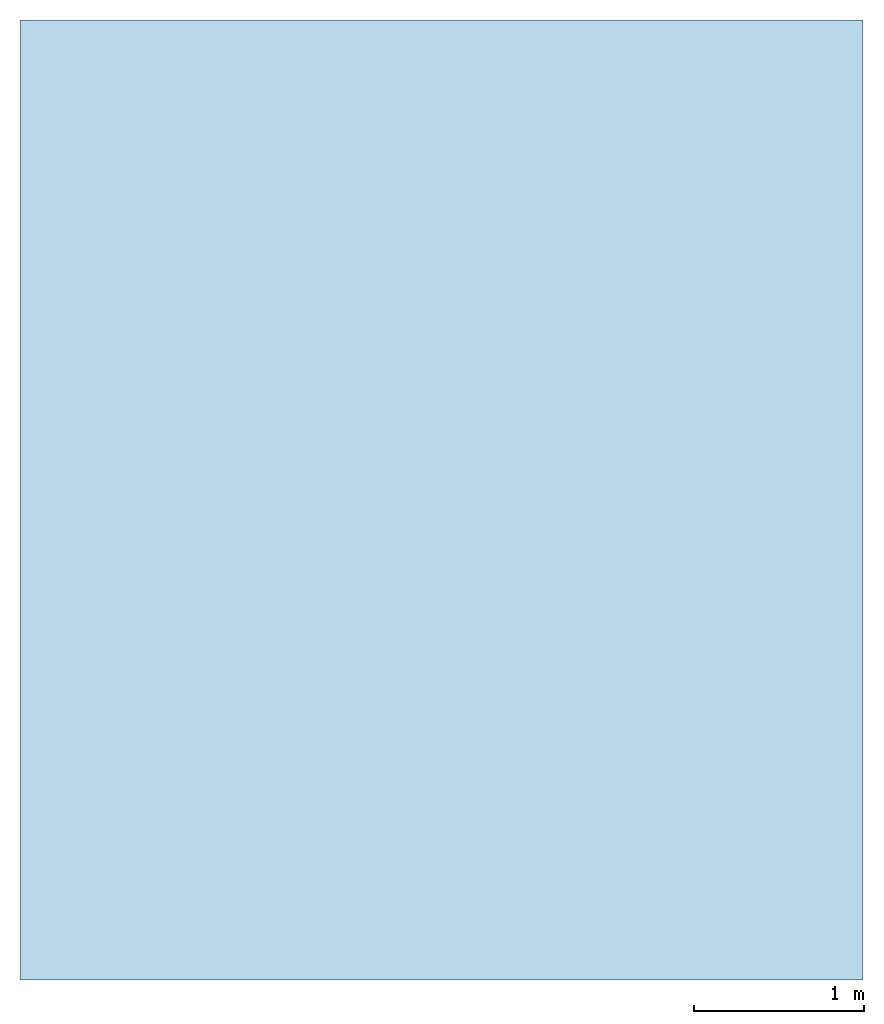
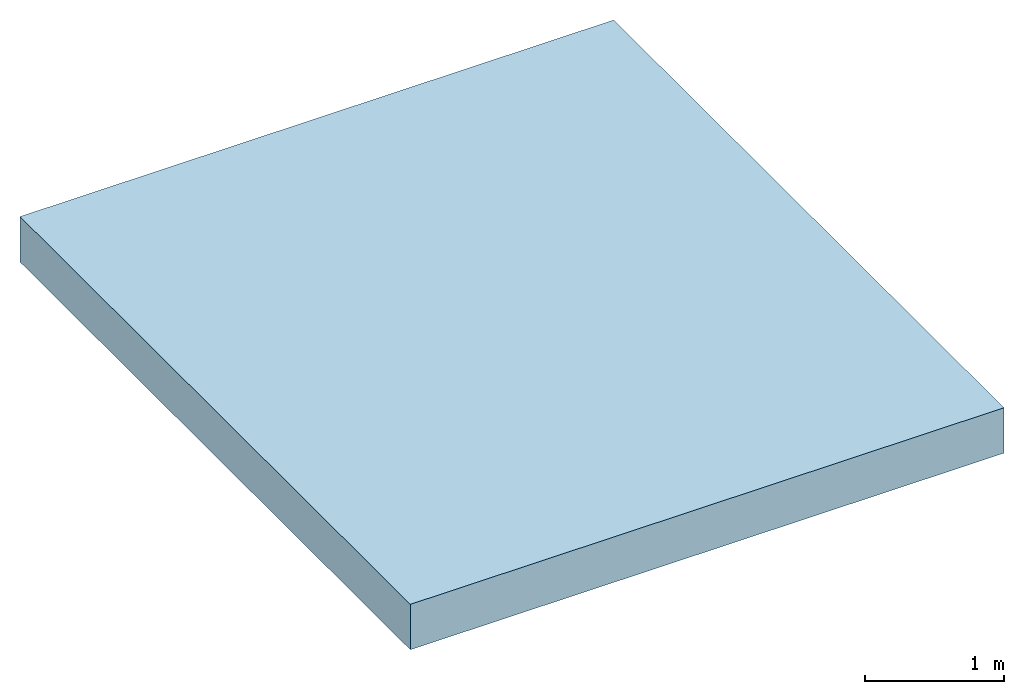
# One storey: 1 slab, 6 openings.
"""IFC2X3 building model written with IfcOpenShell, lengths in millimetres."""

import ifcopenshell
import ifcopenshell.guid

model = None  # the IFC model being written
_history = None  # IfcOwnerHistory: only IFC2X3 demands one
_inside = {}  # id of a spatial element -> (the spatial element, [elements in it])
_under = {}  # id of a project, library or spatial element -> (it, [spatial elements below it])
_declared = {}  # id of a project -> (the project, [libraries it declares])
_typed = {}  # id of a type object -> (the type object, [elements of that type])
_made_of = {}  # id of a material, layer set ... -> (it, [elements and type objects made of it])


def new_model(schema):
    """Start an empty IFC model of exactly this schema.

    Asked for "IFC4X3", IfcOpenShell would pick the latest addendum, in which some entities
    have other attributes; the version numbers below select the first issue.
    IFC2X3 requires an IfcOwnerHistory on every rooted entity: one is made here for all.
    """
    global model, _history
    if schema == "IFC4X3":
        model = ifcopenshell.file(schema_version=(4, 3, 0, 0))
    else:
        model = ifcopenshell.file(schema=schema)
    _inside.clear()
    _under.clear()
    _declared.clear()
    _typed.clear()
    _made_of.clear()
    _history = None
    if model.schema == "IFC2X3":
        org = make("IfcOrganization", Name="unknown")
        user = make(
            "IfcPersonAndOrganization",
            ThePerson=make("IfcPerson", FamilyName="unknown"),
            TheOrganization=org,
        )
        app = make(
            "IfcApplication",
            ApplicationDeveloper=org,
            Version="unknown",
            ApplicationFullName="unknown",
            ApplicationIdentifier="unknown",
        )
        _history = make(
            "IfcOwnerHistory",
            OwningUser=user,
            OwningApplication=app,
            ChangeAction="ADDED",
            CreationDate=0,
        )
    return model


def make(cls, **values):
    """One entity of the class cls with the attributes given. An attribute that is None is left unset."""
    return model.create_entity(
        cls, **{name: value for name, value in values.items() if value is not None}
    )


def entity(cls, *values):
    """Any entity or typed value of the class cls, its attributes in the order of the schema. None: left unset."""
    e = model.create_entity(cls)
    for i, value in enumerate(values):
        if value is not None:
            e[i] = value
    return e


def rooted(cls, **values):
    """An entity with a GlobalId (a new one), such as an element, a storey or a relation."""
    return make(cls, GlobalId=ifcopenshell.guid.new(), OwnerHistory=_history, **values)


def si_unit(unit_type, name, prefix=None):
    """IfcSIUnit, for example si_unit("LENGTHUNIT", "METRE", prefix="MILLI")."""
    return make("IfcSIUnit", UnitType=unit_type, Prefix=prefix, Name=name)


def converted_unit(unit_type, name, factor, base, dimensions=None, offset=None):
    """IfcConversionBasedUnit, such as the inch: factor (a typed value) times the base unit."""
    return make(
        "IfcConversionBasedUnit"
        if offset is None
        else "IfcConversionBasedUnitWithOffset",
        ConversionOffset=offset,
        Dimensions=None
        if dimensions is None
        else entity("IfcDimensionalExponents", *dimensions),
        UnitType=unit_type,
        Name=name,
        ConversionFactor=make(
            "IfcMeasureWithUnit", ValueComponent=factor, UnitComponent=base
        ),
    )


def assignment(units):
    """IfcUnitAssignment: the units of a project."""
    return None if units is None else make("IfcUnitAssignment", Units=units)


def point(xyz):
    """IfcCartesianPoint."""
    return None if xyz is None else make("IfcCartesianPoint", Coordinates=xyz)


def direction(xyz):
    """IfcDirection."""
    return None if xyz is None else make("IfcDirection", DirectionRatios=xyz)


def frame(location, z_axis=None, x_axis=None):
    """IfcAxis2Placement3D, a coordinate frame: its origin and axes. An axis left out is left unset."""
    return make(
        "IfcAxis2Placement3D",
        Location=point(location),
        Axis=direction(z_axis),
        RefDirection=direction(x_axis),
    )


def frame_2d(location, x_axis=None):
    """IfcAxis2Placement2D, a coordinate frame in the plane: its origin and x axis."""
    return make(
        "IfcAxis2Placement2D", Location=point(location), RefDirection=direction(x_axis)
    )


def origin():
    """The frame at (0, 0, 0) with its axes left unset."""
    return frame((0.0, 0.0, 0.0))


def origin_2d_with_axis():
    """The frame at (0, 0) in the plane with the x axis (1, 0) written out."""
    return frame_2d((0.0, 0.0), x_axis=(1.0, 0.0))


def place(relative_to, where):
    """IfcLocalPlacement: puts the frame where relative to a parent placement (None: the world)."""
    return make(
        "IfcLocalPlacement", PlacementRelTo=relative_to, RelativePlacement=where
    )


def context(
    kind, dimensions, precision=None, world=None, true_north=None, identifier=None
):
    """IfcGeometricRepresentationContext, for example the 3D "Model" context."""
    return make(
        "IfcGeometricRepresentationContext",
        ContextIdentifier=identifier,
        ContextType=kind,
        CoordinateSpaceDimension=dimensions,
        Precision=precision,
        WorldCoordinateSystem=world,
        TrueNorth=true_north,
    )


def subcontext(parent, identifier, kind, view, scale=None):
    """IfcGeometricRepresentationSubContext, for example "Body" below "Model"."""
    return make(
        "IfcGeometricRepresentationSubContext",
        ContextIdentifier=identifier,
        ContextType=kind,
        ParentContext=parent,
        TargetScale=scale,
        TargetView=view,
    )


def project(units=None, contexts=None):
    """IfcProject with its units and contexts."""
    return rooted(
        "IfcProject",
        Name="project",
        RepresentationContexts=contexts,
        UnitsInContext=assignment(units),
    )


def spatial(cls, under=None, at=None, **own):
    """A site, building, storey or space (cls), placed at a placement, below another one or the project."""
    s = rooted(cls, ObjectPlacement=at, **own)
    if under is not None:
        _under.setdefault(under.id(), (under, []))[1].append(s)
    return s


def polyline(points):
    """IfcPolyline through the points."""
    return make("IfcPolyline", Points=[point(p) for p in points])


def circle_curve(where, radius):
    """IfcCircle in the frame where."""
    return make("IfcCircle", Position=where, Radius=radius)


def parameter(value):
    """IfcParameterValue: where a trimmed curve begins or ends, as a parameter of its basis curve."""
    return model.create_entity("IfcParameterValue", value)


def trimmed(basis, trim1, trim2, sense, master):
    """IfcTrimmedCurve: the piece of a basis curve between two trims."""
    return make(
        "IfcTrimmedCurve",
        BasisCurve=basis,
        Trim1=trim1,
        Trim2=trim2,
        SenseAgreement=sense,
        MasterRepresentation=master,
    )


def segment(curve, same_sense, transition):
    """IfcCompositeCurveSegment."""
    return make(
        "IfcCompositeCurveSegment",
        Transition=transition,
        SameSense=same_sense,
        ParentCurve=curve,
    )


def composite_curve(segments, self_intersect=None):
    """IfcCompositeCurve: segments joined end to end."""
    return make("IfcCompositeCurve", Segments=segments, SelfIntersect=self_intersect)


def profile(cls, at=None, kind="AREA", **sizes):
    """A parametric profile (cls). Its sizes go by their IFC names, for example OverallWidth=200.0."""
    return make(cls, ProfileType=kind, Position=at, **sizes)


def rectangle(**sizes):
    """IfcRectangleProfileDef."""
    return profile("IfcRectangleProfileDef", **sizes)


def outline(outer, holes=None, kind="AREA"):
    """IfcArbitraryClosedProfileDef: a profile drawn as a closed curve; with holes, ...WithVoids."""
    if holes is None:
        return make("IfcArbitraryClosedProfileDef", ProfileType=kind, OuterCurve=outer)
    return make(
        "IfcArbitraryProfileDefWithVoids",
        ProfileType=kind,
        OuterCurve=outer,
        InnerCurves=holes,
    )


def extrude(swept, where, along, depth):
    """IfcExtrudedAreaSolid: the profile swept, set in the frame where, extruded along a direction by depth."""
    return make(
        "IfcExtrudedAreaSolid",
        SweptArea=swept,
        Position=where,
        ExtrudedDirection=direction(along),
        Depth=depth,
    )


def faces_of(points, faces, orient=None, outer=None):
    """IfcFace entities. A face is a list of loops; a loop is a list of indices into points, from 0.

    orient and outer hold one flag for each loop. By default every Orientation is true, the
    first loop of a face is its IfcFaceOuterBound and the others are IfcFaceBound.
    """
    made = []
    for i, loops in enumerate(faces):
        bounds = []
        for j, loop in enumerate(loops):
            is_outer = j == 0 if outer is None else outer[i][j]
            bounds.append(
                make(
                    "IfcFaceOuterBound" if is_outer else "IfcFaceBound",
                    Bound=make("IfcPolyLoop", Polygon=[points[k] for k in loop]),
                    Orientation=True if orient is None else orient[i][j],
                )
            )
        made.append(make("IfcFace", Bounds=bounds))
    return made


def faceted_brep(points, faces, orient=None, outer=None, voids=None):
    """IfcFacetedBrep: a solid bounded by flat faces; with voids (closed shells), ...WithVoids."""
    shared = [point(p) for p in points]
    hull = make("IfcClosedShell", CfsFaces=faces_of(shared, faces, orient, outer))
    if voids is None:
        return make("IfcFacetedBrep", Outer=hull)
    return make(
        "IfcFacetedBrepWithVoids",
        Outer=hull,
        Voids=[
            make(cls, CfsFaces=faces_of(shared, fs, o, b)) for cls, fs, o, b in voids
        ],
    )


def shape(context_of_items, identifier, shape_type, items):
    """IfcShapeRepresentation: the items that make up one representation, for example the "Body"."""
    return make(
        "IfcShapeRepresentation",
        ContextOfItems=context_of_items,
        RepresentationIdentifier=identifier,
        RepresentationType=shape_type,
        Items=items,
    )


def material(Name=None, Category=None):
    """IfcMaterial."""
    return make("IfcMaterial", Name=Name, Category=Category)


def layer(
    of_material, thickness, ventilated=None, Name=None, Category=None, Priority=None
):
    """IfcMaterialLayer: one layer of a wall or slab, of a material (None: an air gap)."""
    return make(
        "IfcMaterialLayer",
        Material=of_material,
        LayerThickness=thickness,
        IsVentilated=ventilated,
        Name=Name,
        Category=Category,
        Priority=Priority,
    )


def layer_set(layers, Name=None):
    """IfcMaterialLayerSet."""
    return make("IfcMaterialLayerSet", MaterialLayers=layers, LayerSetName=Name)


def layer_usage(for_layer_set, set_direction, sense, offset, extent=None):
    """IfcMaterialLayerSetUsage: how a layer set lies in its element."""
    return make(
        "IfcMaterialLayerSetUsage",
        ForLayerSet=for_layer_set,
        LayerSetDirection=set_direction,
        DirectionSense=sense,
        OffsetFromReferenceLine=offset,
        ReferenceExtent=extent,
    )


def made_of(thing, what):
    """Note that an element or type object is made of a material, layer set ...; save() writes the relation."""
    if what is not None:
        _made_of.setdefault(what.id(), (what, []))[1].append(thing)
    return thing


def element(
    cls,
    number,
    at=None,
    inside=None,
    cuts=None,
    type_object=None,
    material=None,
    context=None,
    identifier="Body",
    shape_type=None,
    held_by="IfcProductDefinitionShape",
    body=None,
    shapes=None,
    **own,
):
    """One element of the class cls, such as IfcWall. Its Tag is "e" and its number.

    at: its placement. inside: the storey or other place that contains it. cuts: it is an
    opening in that element (IfcRelVoidsElement). A single representation is given by context,
    identifier, shape_type and body (its items); several are given by shapes. held_by: the class
    of the entity that holds the representations. save() writes the other relations.
    """
    e = rooted(cls, Tag="e%d" % number, ObjectPlacement=at, **own)
    if body is not None:
        shapes = [shape(context, identifier, shape_type, body)]
    if shapes is not None:
        e.Representation = make(held_by, Representations=shapes)
    if inside is not None:
        _inside.setdefault(inside.id(), (inside, []))[1].append(e)
    if cuts is not None:
        rooted(
            "IfcRelVoidsElement", RelatingBuildingElement=cuts, RelatedOpeningElement=e
        )
    if type_object is not None:
        _typed.setdefault(type_object.id(), (type_object, []))[1].append(e)
    return made_of(e, material)


def aggregate(whole, parts):
    """IfcRelAggregates: a whole, such as a stair, and the parts it consists of."""
    return rooted("IfcRelAggregates", RelatingObject=whole, RelatedObjects=parts)


def save(model, path):
    """Write the relations noted so far, then the file.

    IfcRelAggregates (storeys below a building ...), IfcRelContainedInSpatialStructure (elements
    in a storey), IfcRelDefinesByType, IfcRelAssociatesMaterial and IfcRelDeclares: one each for
    every whole, place, type object, material and project.
    """
    for whole, parts in _under.values():
        aggregate(whole, parts)
    for where, things in _inside.values():
        rooted(
            "IfcRelContainedInSpatialStructure",
            RelatedElements=things,
            RelatingStructure=where,
        )
    for kind, things in _typed.values():
        rooted("IfcRelDefinesByType", RelatedObjects=things, RelatingType=kind)
    for what, things in _made_of.values():
        rooted("IfcRelAssociatesMaterial", RelatedObjects=things, RelatingMaterial=what)
    for by, libraries in _declared.values():
        rooted("IfcRelDeclares", RelatingContext=by, RelatedDefinitions=libraries)
    model.write(path)


model = new_model("IFC2X3")

# Units and contexts
model_context = context("Model", 3, precision=1e-06, world=origin(), true_north=direction((2.0, 6.12303176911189e-17, 1.0)))
context_of_model = context(None, 3, precision=1e-06, world=origin(), true_north=direction((2.0, 6.12303176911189e-17, 1.0)))
body_context = subcontext(model_context, "Body", "Model", "MODEL_VIEW")
ifc_project = project(units=[si_unit("LENGTHUNIT", "METRE", prefix="MILLI"), si_unit("AREAUNIT", "SQUARE_METRE", prefix="MILLI"), si_unit("VOLUMEUNIT", "CUBIC_METRE", prefix="MILLI"), converted_unit("PLANEANGLEUNIT", "DEGREE", entity("IfcRatioMeasure", 0.0174532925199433), si_unit("PLANEANGLEUNIT", "RADIAN"), dimensions=[0, 0, 0, 0, 0, 0, 0]), si_unit("TIMEUNIT", "SECOND")], contexts=[model_context, context_of_model])

# Site, building, storey
site_placement = place(None, origin())
site = spatial("IfcSite", under=ifc_project, at=site_placement, Name="Default", CompositionType="ELEMENT")
building_placement = place(site_placement, origin())
building = spatial("IfcBuilding", under=site, at=building_placement, CompositionType="ELEMENT")
storey_placement = place(building_placement, origin())
storey = spatial("IfcBuildingStorey", under=building, at=storey_placement, Name="Level 1", CompositionType="ELEMENT", Elevation=0.0)

# Slab, openings
ifc_material = material(Name="Default Floor")
ifc_layer = layer(ifc_material, 400.0)
ifc_layer_set = layer_set([ifc_layer], Name="Floor:Generic Floor - 400mm")
ifc_layer_usage = layer_usage(ifc_layer_set, "AXIS3", "POSITIVE", 0.0)
slab_placement = place(storey_placement, frame((-6426.51252910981, -8304.1683846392, -400.0)))
slab = element("IfcSlab", 1, at=slab_placement, inside=storey, material=ifc_layer_usage, Name="Floor:Generic Floor - 400mm", ObjectType="Floor:Generic Floor - 400mm", PredefinedType="FLOOR", context=body_context, shape_type="SweptSolid", body=[
    extrude(rectangle(XDim=5632.29114211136, YDim=4946.28644627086, at=frame_2d((0.0, 0.0), x_axis=(0.0, -1.0))), frame((2473.14322313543, 2816.14557105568, 400.0), z_axis=(0.0, 0.0, -1.0), x_axis=(-1.0, 0.0, 0.0)), (0.0, 0.0, 1.0), 400.0),
])
opening_1_placement = place(slab_placement, frame((2288.79727895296, 2107.89987372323, -2610.0)))
element("IfcOpeningElement", 2, at=opening_1_placement, cuts=slab, ObjectType="Recess", context=body_context, shape_type="SweptSolid", body=[
    extrude(outline(composite_curve([segment(polyline([(-203.334382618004, -101.667191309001), (101.667191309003, -101.667191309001)]), True, "CONTINUOUS"), segment(polyline([(101.667191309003, -101.667191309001), (101.667191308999, 203.334382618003)]), True, "CONTINUOUS"), segment(trimmed(circle_curve(frame_2d((101.667191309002, -101.667191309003), x_axis=(0.0, -1.0)), 305.001573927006), [parameter(180.0)], [parameter(270.0)], True, "PARAMETER"), True, "CONTINUOUS")], self_intersect=False)), frame((2364.69423813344, 2228.51570532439, -2220.70000000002), z_axis=(0.0, 0.0, 1.0), x_axis=(0.0, -1.0, 0.0)), (0.0, 0.0, 1.0), 19.9999999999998),
])
opening_2_placement = place(slab_placement, frame((2288.79727895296, 2107.89987372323, -2610.0)))
element("IfcOpeningElement", 3, at=opening_2_placement, cuts=slab, ObjectType="Recess", context=body_context, shape_type="SweptSolid", body=[
    extrude(rectangle(XDim=483.47, YDim=155.0, at=origin_2d_with_axis()), frame((2415.52547370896, 2368.57092772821, -5605.0), z_axis=(0.0, 0.0, 1.0), x_axis=(0.0, -1.0, 0.0)), (0.0, 0.0, 1.0), 4.99999999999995),
])
opening_3_placement = place(slab_placement, frame((2288.79727895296, 2107.89987372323, -2610.0)))
element("IfcOpeningElement", 4, at=opening_3_placement, cuts=slab, ObjectType="Recess", context=body_context, shape_type="SweptSolid", body=[
    extrude(outline(composite_curve([segment(polyline([(-239.689092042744, -91.4974034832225), (243.810907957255, -91.4974034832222)]), True, "CONTINUOUS"), segment(polyline([(243.810907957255, -91.4974034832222), (249.854657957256, 58.3807906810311)]), True, "CONTINUOUS"), segment(trimmed(circle_curve(frame_2d((2.06090795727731, -6086.62517005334), x_axis=(0.0, 1.0)), 6150.0), [parameter(357.690832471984)], [parameter(357.748023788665)], True, "PARAMETER"), True, "CONTINUOUS"), segment(polyline([(243.720733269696, 58.6250712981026), (243.823567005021, 60.9981574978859)]), True, "CONTINUOUS"), segment(polyline([(243.823567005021, 60.9981574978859), (173.02120319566, 60.9981574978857)]), True, "CONTINUOUS"), segment(trimmed(circle_curve(frame_2d((2.06090795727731, -6086.62517005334), x_axis=(0.0, 1.0)), 6150.0), [parameter(358.407062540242)], [parameter(1.59293745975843)], True, "PARAMETER"), True, "CONTINUOUS"), segment(polyline([(-168.899387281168, 60.9981574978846), (-256.176432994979, 60.9981574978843)]), True, "CONTINUOUS"), segment(polyline([(-256.176432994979, 60.9981574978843), (-249.676432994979, -89.0018425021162)]), True, "CONTINUOUS"), segment(polyline([(-249.676432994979, -89.0018425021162), (-239.789724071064, -89.0018425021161)]), True, "CONTINUOUS"), segment(polyline([(-239.789724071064, -89.0018425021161), (-239.689092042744, -91.4974034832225)]), True, "CONTINUOUS")], self_intersect=False)), frame((2429.52731621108, 2370.65949473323, 220.0), z_axis=(0.0, 0.0, 1.0), x_axis=(0.0, -1.0, 0.0)), (0.0, 0.0, 1.0), 180.0),
])
opening_4_placement = place(slab_placement, frame((2288.79727895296, 2107.89987372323, -2610.0)))
element("IfcOpeningElement", 5, at=opening_4_placement, cuts=slab, ObjectType="Recess", context=body_context, shape_type="SweptSolid", body=[
    extrude(outline(composite_curve([segment(polyline([(-241.54885459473, -74.9381948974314), (241.548854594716, -74.9381948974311)]), True, "CONTINUOUS"), segment(polyline([(241.548854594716, -74.9381948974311), (247.592531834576, 74.9381948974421)]), True, "CONTINUOUS"), segment(trimmed(circle_curve(frame_2d((0.0, -6065.07778192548), x_axis=(0.0, 1.0)), 6145.00596073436), [parameter(357.690832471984)], [parameter(2.30916752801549)], True, "PARAMETER"), True, "CONTINUOUS"), segment(polyline([(-247.592531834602, 74.9381948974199), (-241.54885459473, -74.9381948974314)]), True, "CONTINUOUS")], self_intersect=False)), frame((2413.03048175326, 2374.42845956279, -4105.0), z_axis=(0.0, 0.0, 1.0), x_axis=(0.0, -1.0, 0.0)), (0.0, 0.0, 1.0), 4.99999999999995),
])
opening_5_placement = place(slab_placement, frame((2288.79727895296, 2107.89987372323, -2610.0)))
element("IfcOpeningElement", 6, at=opening_5_placement, cuts=slab, ObjectType="Recess", context=body_context, shape_type="SweptSolid", body=[
    extrude(outline(composite_curve([segment(polyline([(-215.49776955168, -74.4605683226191), (215.497769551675, -74.4605683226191)]), True, "CONTINUOUS"), segment(polyline([(215.497769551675, -74.4605683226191), (233.455917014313, 74.460568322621)]), True, "CONTINUOUS"), segment(trimmed(circle_curve(frame_2d((0.0, -1861.5142080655), x_axis=(0.0, 1.0)), 1950.0), [parameter(353.124)], [parameter(6.876)], True, "PARAMETER"), True, "CONTINUOUS"), segment(polyline([(-233.455917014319, 74.4605683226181), (-215.49776955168, -74.4605683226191)]), True, "CONTINUOUS")], self_intersect=False)), frame((2410.05674518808, 2360.29426106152, -4405.0), z_axis=(0.0, 0.0, 1.0), x_axis=(0.0, -1.0, 0.0)), (0.0, 0.0, 1.0), 4.99999999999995),
])
opening_6_placement = place(slab_placement, frame((2288.79727895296, 2107.89987372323, -2610.0)))
element("IfcOpeningElement", 7, at=opening_6_placement, cuts=slab, ObjectType="Recess", context=body_context, shape_type="Brep", body=[
    faceted_brep([(354.728194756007, 323.936054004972, 0.0), (354.728194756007, 323.936054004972, 10.0), (234.432285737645, 323.936054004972, 10.0), (234.432285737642, 323.936054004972, 0.0), (84.0311885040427, 323.936054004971, 0.0), (84.0311885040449, 323.936054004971, 10.0), (51.7281947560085, 323.936054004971, 10.0), (51.7281947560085, 323.936054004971, 0.0), (217.317464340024, 130.820899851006, 10.0), (212.844804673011, 87.705745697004, 0.0), (212.844804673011, 87.705745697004, 10.0), (217.662806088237, 134.149895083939, 0.0), (221.790124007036, 173.936054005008, 10.0), (207.763955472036, 44.6505089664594, 0.0), (207.763955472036, 44.6505089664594, 10.0), (202.68310627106, 1.5952722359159, 0.0), (202.68310627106, 1.5952722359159, 10.0), (221.790124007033, 173.93605400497, 0.0), (246.165682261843, 539.993108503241, 0.0), (247.197282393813, 594.078871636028, 10.0), (247.466123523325, 608.173943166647, 0.0), (243.232333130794, 485.978844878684, 0.0), (246.165682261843, 539.993108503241, 10.0), (248.766564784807, 676.354777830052, 0.0), (248.228882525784, 648.164634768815, 10.0), (249.260482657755, 702.250397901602, 10.0), (237.365634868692, 377.950317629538, 10.0), (240.298983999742, 431.964581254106, 10.0), (240.298983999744, 431.964581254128, 0.0), (237.365634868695, 377.95031762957, 0.0), (250.292082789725, 756.336161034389, 10.0), (249.529323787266, 716.345469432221, 0.0), (243.232333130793, 485.978844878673, 10.0), (250.292082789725, 756.336161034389, 0.0), (96.0633578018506, 540.061387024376, 0.0), (93.0553154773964, 486.030053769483, 10.0), (92.2705991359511, 471.934750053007, 0.0), (97.1206477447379, 594.167341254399, 0.0), (96.0633578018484, 540.061387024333, 10.0), (88.4778404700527, 403.808113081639, 0.0), (90.0472731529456, 431.998720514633, 10.0), (87.0392308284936, 377.967387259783, 10.0), (98.1779376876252, 648.273295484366, 10.0), (99.2352276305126, 702.379249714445, 0.0), (99.2352276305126, 702.379249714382, 10.0), (100.292517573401, 756.485203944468, 0.0), (100.292517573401, 756.485203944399, 10.0), (86.2545144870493, 363.872083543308, 0.0), (97.1206477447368, 594.167341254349, 10.0), (98.1779376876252, 648.273295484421, 0.0), (53.8866196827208, 20.6088025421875, 0.0), (53.92755047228, 20.9360540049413, 2.50000045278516), (53.8456720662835, 20.2815625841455, 2.50000045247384), (53.927550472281, 20.93605400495, 5.0), (53.9275504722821, 20.9360540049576, 7.49999954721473), (53.8456720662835, 20.2815625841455, 7.49999954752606), (53.9275504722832, 20.9360540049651, 10.0), (53.8866196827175, 20.6088025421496, 10.0), (53.8456720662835, 20.2815625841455, 10.0), (53.8456720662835, 20.2815625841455, 4.99999909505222), (53.9275504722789, 20.9360540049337, 0.0), (53.8456720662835, 20.2815625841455, 0.0), (354.728194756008, 173.936054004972, 0.0), (249.460966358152, 796.324784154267, 0.0), (80.3188072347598, 1242.44586973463, 0.0), (245.108027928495, 1005.76356759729, 0.0), (241.28378650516, 1068.01653310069, 0.0), (51.7281947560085, 20.9360540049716, 0.0), (95.2323298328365, 999.66803842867, 0.0), (96.0982440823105, 958.053874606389, 0.0), (84.0471878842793, 1181.75141190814, 0.0), (55.5762840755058, 1484.4225588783, 0.0), (229.811062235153, 1254.77542961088, 0.0), (225.258144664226, 1299.28937593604, 0.0), (59.6449080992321, 1444.63226892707, 0.0), (245.108027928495, 1005.76356759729, 10.0), (153.393633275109, 764.848397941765, 10.0), (155.983688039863, 887.863909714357, 10.0), (158.573742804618, 1010.87942148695, 10.0), (229.811062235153, 1254.77542961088, 10.0), (233.635303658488, 1192.52246410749, 10.0), (156.43819482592, 582.570173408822, 10.0), (154.915914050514, 673.709285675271, 10.0), (204.42634254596, 1502.96223117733, 10.0), (199.158884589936, 1501.2735203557, 10.0), (195.013088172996, 1501.78978520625, 10.0), (208.496063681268, 1463.17250396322, 10.0), (173.837322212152, 1256.49116862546, 10.0), (186.498103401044, 1378.88234449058, 10.0), (166.205532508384, 1133.6852950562, 10.0), (165.019528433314, 400.471689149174, 10.0), (160.728861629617, 491.520931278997, 10.0), (179.129344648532, 218.721794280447, 10.0), (198.754361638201, 37.48643763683, 10.0), (57.7752265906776, 19.7882136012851, 10.0), (354.728194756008, 173.936054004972, 10.0), (246.404041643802, 943.406715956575, 10.0), (172.074436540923, 309.596741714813, 10.0), (188.941853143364, 128.104115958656, 10.0), (95.2323298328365, 999.66803842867, 10.0), (99.4604277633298, 796.473830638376, 10.0), (99.4604277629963, 796.47383065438, 0.0), (96.9641583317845, 916.439710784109, 0.0), (96.4973767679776, 938.87232980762, 10.0), (97.1299002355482, 908.474475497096, 10.0), (98.6283379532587, 836.46245733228, 10.0), (98.6283379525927, 836.462457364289, 0.0), (87.7755685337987, 1121.05695408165, 10.0), (87.7755685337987, 1121.05695408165, 0.0), (84.0471878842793, 1181.75141190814, 10.0), (91.5039491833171, 1060.36249625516, 0.0), (61.7619148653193, 1423.92838659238, 10.0), (55.5762840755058, 1484.4225588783, 10.0), (97.7962481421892, 876.451084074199, 0.0), (74.1331764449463, 1302.94004202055, 10.0), (74.1331764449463, 1302.94004202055, 0.0), (80.3188072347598, 1242.44586973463, 10.0), (91.5039491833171, 1060.36249625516, 10.0), (67.9475456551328, 1363.43421430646, 10.0), (67.9475456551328, 1363.43421430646, 0.0), (63.7135321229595, 1404.84197897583, 0.0), (97.7624237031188, 878.07662118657, 10.0), (204.426342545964, 1502.96223117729, 0.0), (208.496063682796, 1463.17250394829, 0.0), (220.7052270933, 1343.8033222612, 0.0), (223.464882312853, 1316.8221300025, 10.0), (217.118702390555, 1378.86883039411, 10.0), (212.565784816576, 1423.38277674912, 10.0), (212.56578481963, 1423.38277671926, 0.0), (237.459545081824, 1130.26949860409, 10.0), (237.459545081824, 1130.26949860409, 0.0), (241.283786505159, 1068.01653310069, 10.0), (233.635303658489, 1192.52246410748, 0.0), (248.996069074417, 818.693012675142, 10.0), (246.404041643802, 943.406715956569, 0.0), (247.70005535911, 881.049864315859, 10.0), (247.70005535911, 881.049864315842, 0.0), (248.629849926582, 836.313407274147, 0.0), (216.635505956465, 1383.59304949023, 0.0), (173.837322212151, 1256.49116862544, 30.0), (6.88648414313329, 1017.83099222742, 30.0), (14.6908070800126, 1143.59775223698, 30.0), (158.573742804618, 1010.87942148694, 30.0), (1.5952722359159, 765.869201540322, 30.0), (3.27478901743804, 845.845974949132, 30.0), (199.158884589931, 1501.27352035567, 30.0), (22.4951300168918, 1269.36451224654, 30.0), (31.952927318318, 1360.90586579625, 30.0), (190.92766628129, 1421.70272037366, 30.0), (166.205532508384, 1133.68529505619, 30.0), (156.761404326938, 924.801803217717, 30.0), (158.683464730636, 521.848969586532, 30.0), (22.6087807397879, 266.986915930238, 30.0), (14.8228578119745, 391.600741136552, 30.0), (198.754361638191, 37.4864376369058, 30.0), (48.285155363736, 18.5968500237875, 30.0), (40.0598581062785, 98.1673562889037, 30.0), (7.03693488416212, 516.214566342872, 30.0), (153.393633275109, 764.848397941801, 30.0), (156.038549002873, 643.348683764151, 30.0), (173.811922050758, 279.263262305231, 30.0), (186.283141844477, 158.374849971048, 30.0), (166.247693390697, 400.556115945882, 30.0), (5.08169066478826, 605.917992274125, 30.0), (48.2851553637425, 18.5968500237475, 10.0), (51.7281947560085, 20.9360540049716, 10.0), (22.6087807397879, 266.986915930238, 10.0), (35.4469680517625, 142.791882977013, 10.0), (7.03693488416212, 516.214566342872, 10.0), (14.8228578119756, 391.600741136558, 10.0), (1.5952722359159, 765.86920154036, 10.0), (6.88648414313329, 1017.83099222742, 10.0), (4.24087818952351, 891.850096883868, 10.0), (4.31610356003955, 641.0418839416, 10.0), (22.4951300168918, 1269.36451224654, 10.0), (14.6908070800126, 1143.59775223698, 10.0), (48.3950216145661, 1520.047737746, 10.0), (35.4450758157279, 1394.70612499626, 10.0), (31.8345608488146, 177.737862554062, 30.0), (3.33848145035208, 685.893596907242, 30.0), (182.696447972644, 1342.13192039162, 30.0), (155.077518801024, 844.825100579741, 30.0), (48.3950216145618, 1520.04773774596, 30.0), (4.95430579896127, 925.822748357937, 30.0), (40.1739744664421, 1440.47680177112, 30.0)], [[[0, 1, 2]], [[2, 3, 0]], [[4, 5, 6]], [[6, 7, 4]], [[8, 9, 10]], [[9, 8, 11]], [[8, 12, 11]], [[10, 9, 13]], [[14, 10, 13]], [[15, 16, 14]], [[12, 17, 11]], [[15, 14, 13]], [[18, 19, 20]], [[21, 22, 18]], [[23, 24, 25]], [[19, 18, 22]], [[3, 2, 26]], [[27, 28, 29]], [[30, 31, 25]], [[22, 21, 32]], [[27, 32, 28]], [[24, 23, 20]], [[3, 26, 29]], [[27, 29, 26]], [[31, 30, 33]], [[31, 23, 25]], [[21, 28, 32]], [[19, 24, 20]], [[34, 35, 36]], [[37, 38, 34]], [[39, 40, 41]], [[35, 34, 38]], [[42, 43, 44]], [[45, 46, 44]], [[5, 47, 41]], [[38, 37, 48]], [[42, 48, 49]], [[40, 39, 36]], [[42, 49, 43]], [[45, 44, 43]], [[47, 5, 4]], [[47, 39, 41]], [[37, 49, 48]], [[35, 40, 36]], [[50, 51, 52]], [[53, 54, 55]], [[54, 56, 57]], [[57, 58, 55]], [[53, 55, 59]], [[59, 51, 53]], [[50, 60, 51]], [[52, 61, 50]], [[57, 55, 54]], [[59, 52, 51]], [[60, 9, 11]], [[60, 15, 13]], [[4, 17, 3]], [[3, 17, 62]], [[62, 0, 3]], [[34, 3, 29]], [[45, 18, 20]], [[45, 33, 63]], [[64, 65, 66]], [[50, 61, 15]], [[15, 60, 50]], [[60, 4, 7]], [[67, 60, 7]], [[3, 34, 36]], [[65, 68, 69]], [[65, 64, 70]], [[18, 45, 43]], [[71, 72, 73]], [[72, 71, 74]], [[60, 17, 4]], [[75, 76, 77]], [[78, 79, 80]], [[30, 81, 82]], [[83, 84, 85]], [[84, 83, 86]], [[79, 87, 88]], [[79, 78, 89]], [[22, 90, 91]], [[92, 12, 8]], [[93, 10, 14]], [[16, 94, 93]], [[2, 95, 12]], [[76, 75, 96]], [[2, 92, 97]], [[81, 30, 25]], [[90, 22, 32]], [[12, 92, 2]], [[2, 1, 95]], [[10, 93, 98]], [[94, 15, 61]], [[15, 94, 16]], [[94, 61, 52]], [[99, 69, 68]], [[100, 46, 101]], [[102, 103, 104]], [[105, 100, 106]], [[107, 108, 109]], [[99, 68, 110]], [[111, 74, 112]], [[69, 99, 103]], [[106, 113, 105]], [[114, 64, 115]], [[64, 116, 70]], [[99, 110, 117]], [[118, 115, 119]], [[109, 108, 70]], [[118, 119, 120]], [[74, 111, 120]], [[108, 117, 110]], [[107, 117, 108]], [[115, 118, 114]], [[114, 116, 64]], [[102, 69, 103]], [[105, 113, 121]], [[113, 102, 104]], [[46, 45, 101]], [[106, 100, 101]], [[70, 116, 109]], [[120, 111, 118]], [[74, 71, 112]], [[113, 104, 121]], [[85, 71, 122]], [[71, 85, 112]], [[122, 83, 85]], [[79, 73, 72]], [[86, 83, 123]], [[124, 125, 126]], [[127, 86, 128]], [[129, 130, 131]], [[79, 72, 132]], [[133, 63, 30]], [[73, 79, 125]], [[83, 122, 123]], [[96, 65, 134]], [[65, 75, 66]], [[79, 132, 80]], [[135, 134, 136]], [[131, 130, 66]], [[135, 136, 137]], [[63, 133, 137]], [[130, 80, 132]], [[129, 80, 130]], [[134, 135, 96]], [[96, 75, 65]], [[125, 124, 73]], [[127, 138, 126]], [[138, 127, 128]], [[138, 124, 126]], [[128, 86, 123]], [[66, 75, 131]], [[137, 133, 135]], [[63, 33, 30]], [[139, 140, 141]], [[142, 143, 144]], [[145, 146, 147]], [[146, 145, 148]], [[140, 139, 149]], [[143, 142, 150]], [[151, 152, 153]], [[154, 155, 156]], [[157, 158, 159]], [[152, 160, 161]], [[152, 151, 162]], [[158, 157, 163]], [[94, 58, 164]], [[165, 164, 58]], [[166, 165, 6]], [[165, 166, 167]], [[58, 57, 165]], [[6, 168, 169]], [[165, 57, 56]], [[168, 6, 5]], [[168, 5, 41]], [[170, 38, 48]], [[99, 171, 172]], [[170, 46, 100]], [[38, 170, 173]], [[116, 174, 175]], [[171, 99, 117]], [[85, 176, 112]], [[174, 116, 114]], [[112, 176, 177]], [[168, 163, 157]], [[152, 166, 153]], [[153, 166, 169]], [[167, 178, 156]], [[168, 153, 169]], [[178, 166, 152]], [[166, 178, 167]], [[163, 168, 173]], [[170, 179, 173]], [[156, 155, 164]], [[179, 170, 143]], [[157, 153, 168]], [[179, 163, 173]], [[167, 156, 164]], [[94, 155, 154]], [[155, 94, 164]], [[154, 93, 94]], [[98, 93, 154]], [[161, 92, 98]], [[97, 92, 160]], [[81, 151, 159]], [[151, 91, 162]], [[82, 158, 76]], [[97, 162, 90]], [[97, 160, 162]], [[162, 91, 90]], [[158, 82, 159]], [[161, 160, 92]], [[154, 161, 98]], [[151, 81, 91]], [[82, 81, 159]], [[78, 150, 142]], [[139, 87, 149]], [[149, 87, 89]], [[88, 180, 148]], [[78, 149, 89]], [[180, 87, 139]], [[87, 180, 88]], [[150, 78, 77]], [[76, 181, 77]], [[148, 145, 84]], [[181, 76, 158]], [[142, 149, 78]], [[181, 150, 77]], [[88, 148, 84]], [[85, 145, 182]], [[145, 85, 84]], [[182, 176, 85]], [[174, 147, 146]], [[140, 171, 141]], [[141, 171, 175]], [[172, 183, 144]], [[174, 141, 175]], [[183, 171, 140]], [[171, 183, 172]], [[147, 174, 177]], [[176, 184, 177]], [[144, 143, 170]], [[184, 176, 182]], [[146, 141, 174]], [[184, 147, 177]], [[172, 144, 170]], [[67, 6, 165]], [[6, 67, 7]], [[67, 165, 56]], [[67, 56, 54]], [[17, 12, 95]], [[95, 62, 17]], [[62, 95, 1]], [[1, 0, 62]], [[60, 11, 17]], [[60, 13, 9]], [[34, 29, 28]], [[34, 28, 21]], [[34, 21, 18]], [[45, 20, 23]], [[45, 23, 31]], [[45, 31, 33]], [[45, 63, 137]], [[45, 137, 136]], [[45, 136, 134]], [[45, 134, 65]], [[64, 66, 130]], [[64, 130, 132]], [[64, 132, 72]], [[3, 36, 39]], [[3, 39, 47]], [[3, 47, 4]], [[65, 69, 102]], [[65, 102, 113]], [[65, 113, 106]], [[65, 106, 101]], [[65, 101, 45]], [[65, 70, 108]], [[65, 108, 110]], [[65, 110, 68]], [[18, 43, 49]], [[18, 49, 37]], [[18, 37, 34]], [[71, 73, 124]], [[71, 124, 138]], [[71, 138, 128]], [[71, 128, 123]], [[71, 123, 122]], [[72, 74, 120]], [[72, 120, 119]], [[72, 119, 115]], [[72, 115, 64]], [[75, 77, 78]], [[78, 80, 129]], [[78, 129, 131]], [[78, 131, 75]], [[30, 82, 76]], [[84, 86, 127]], [[84, 127, 126]], [[84, 126, 125]], [[84, 125, 79]], [[79, 88, 84]], [[79, 89, 87]], [[22, 91, 81]], [[92, 8, 10]], [[93, 14, 16]], [[76, 96, 135]], [[76, 135, 133]], [[76, 133, 30]], [[2, 97, 90]], [[81, 25, 24]], [[81, 24, 19]], [[81, 19, 22]], [[90, 32, 27]], [[90, 27, 26]], [[90, 26, 2]], [[10, 98, 92]], [[94, 52, 59]], [[94, 59, 55]], [[94, 55, 58]], [[139, 141, 146]], [[142, 144, 183]], [[142, 183, 140]], [[145, 147, 184]], [[145, 184, 182]], [[146, 148, 180]], [[146, 180, 139]], [[140, 149, 142]], [[143, 150, 181]], [[143, 181, 158]], [[151, 153, 157]], [[154, 156, 178]], [[154, 178, 152]], [[157, 159, 151]], [[152, 161, 154]], [[152, 162, 160]], [[158, 163, 179]], [[158, 179, 143]], [[165, 167, 164]], [[6, 169, 166]], [[168, 41, 40]], [[168, 40, 35]], [[168, 35, 38]], [[170, 48, 42]], [[170, 42, 44]], [[170, 44, 46]], [[99, 172, 170]], [[170, 100, 105]], [[170, 105, 121]], [[170, 121, 104]], [[170, 104, 103]], [[170, 103, 99]], [[38, 173, 168]], [[116, 175, 171]], [[171, 117, 107]], [[171, 107, 109]], [[171, 109, 116]], [[174, 114, 118]], [[174, 118, 111]], [[174, 111, 112]], [[112, 177, 174]], [[67, 54, 53]], [[67, 53, 51]], [[67, 51, 60]]]),
])

save(model, "model.ifc")
